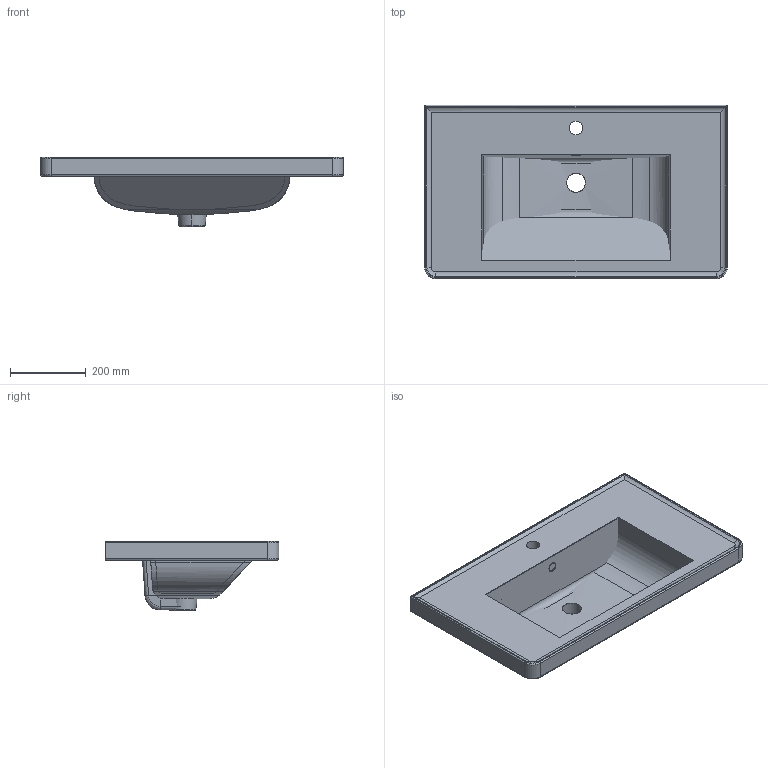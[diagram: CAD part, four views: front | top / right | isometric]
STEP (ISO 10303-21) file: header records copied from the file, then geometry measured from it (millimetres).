
FILE_DESCRIPTION(('FreeCAD Model'),'2;1');
FILE_NAME('Open CASCADE Shape Model','2024-11-19T16:00:27',('Author'),( ''),'Open CASCADE STEP processor 7.6','FreeCAD','Unknown');
FILE_SCHEMA(('AUTOMOTIVE_DESIGN { 1 0 10303 214 1 1 1 1 }'));
Length unit declared in the file: millimetre
Products named in the file (3): TopLevelAssembly; Połączona geometria bryłowa; Połączona geometria bryłowa001
Assembly tree (2 placements, depth 2):
  TopLevelAssembly
    Połączona geometria bryłowa
    Połączona geometria bryłowa001
Bounding box: 801.84 x 458.92 x 183.07 mm (x, y, z)
Volume: 14628440.1 mm3; surface area: 1357371.8 mm2
Topology: 2 solids, 2 shells, 112 faces, 304 edges, 193 vertices
Faces by surface type: cylinder 55, plane 41, bspline 16
Entity records: 4008 total; most frequent: CARTESIAN_POINT 1152, ORIENTED_EDGE 608, DIRECTION 568, EDGE_CURVE 304, AXIS2_PLACEMENT_3D 205, VERTEX_POINT 193, LINE 158, VECTOR 158
